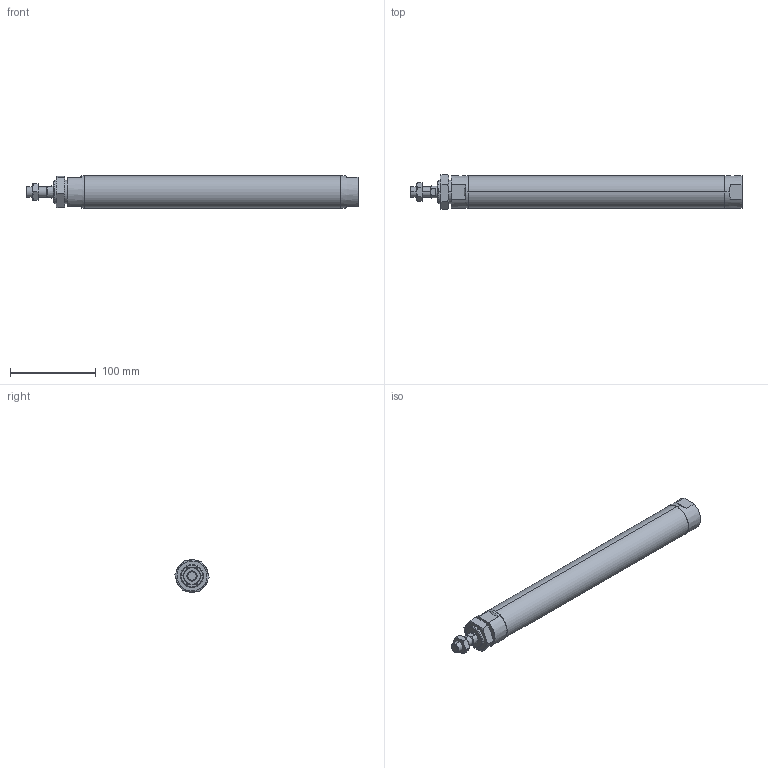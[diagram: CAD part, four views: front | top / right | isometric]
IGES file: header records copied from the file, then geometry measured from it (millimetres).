
Start section: SolidWorks IGES file using analytic representation for surfaces
Global section: file name: C:\Users\Toshiba\Desktop\JGND2-32-250-N.IGS; native system: SolidWorks 2014; preprocessor: SolidWorks 2014; author: Toshiba; date: 160804.110212; units: millimetre
Bounding box: 387 x 40.33 x 38 mm (x, y, z)
Surface area: 50247 mm2 (no closed solid volume)
Topology: 0 solids, 0 shells, 89 faces, 1572 edges, 1568 vertices
Faces by surface type: bspline 56, revolution 33
